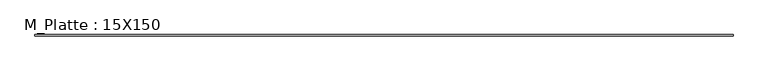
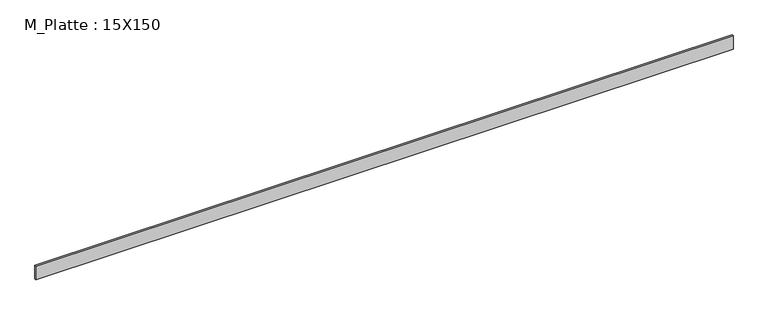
"""IFC4 building model written with IfcOpenShell, lengths in millimetres: beam geometry, M_Platte : 15X150."""

from ifc_helpers import new_model, si_unit, frame, origin, place, context, project, spatial, polyline, outline, extrude, source, transform, mapped, element, save


def m_platte_15x150_a89569ab(model_context):
    return source(origin(), model_context, "Body", "SweptSolid", [
        extrude(outline(polyline([(3595.4979576, 7.5), (3595.4979576, -7.5), (-3756.9034611, -7.5), (-3756.9034611, 7.5), (3595.4979576, 7.5)])), frame((0.0, 0.0, -75.0), z_axis=(0.0, 0.0, 1.0), x_axis=(1.0, 0.0, 0.0)), (0.0, 0.0, 1.0), 150.0),
    ])


if __name__ == "__main__":
    model = new_model("IFC4")
    model_context = context("Model", 3, world=origin())
    ifc_project = project(units=[si_unit("LENGTHUNIT", "METRE", prefix="MILLI")], contexts=[model_context])
    site = spatial("IfcSite", under=ifc_project)
    building = spatial("IfcBuilding", under=site)
    placement = place(None, origin())
    m_platte_15x150_shape = m_platte_15x150_a89569ab(model_context)
    element("IfcBeam", 1, ObjectType="M_Platte : 15X150", at=placement, inside=building, context=model_context, shape_type="MappedRepresentation", body=[
        mapped(m_platte_15x150_shape, transform((0.0, 0.0, 0.0), x_axis=(1.0, 0.0, 0.0), y_axis=(0.0, 1.0, 0.0), z_axis=(0.0, 0.0, 1.0))),
    ])
    save(model, "model.ifc")
